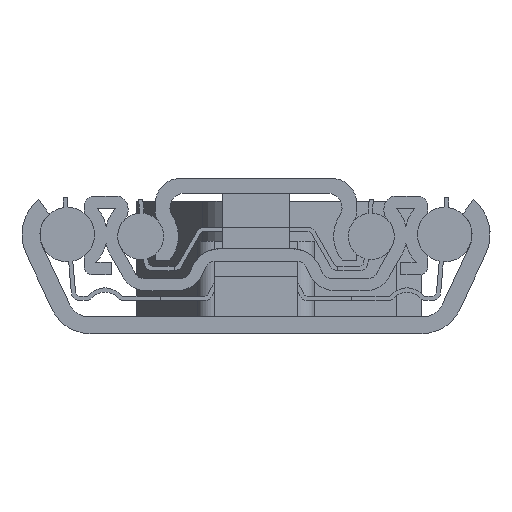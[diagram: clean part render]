
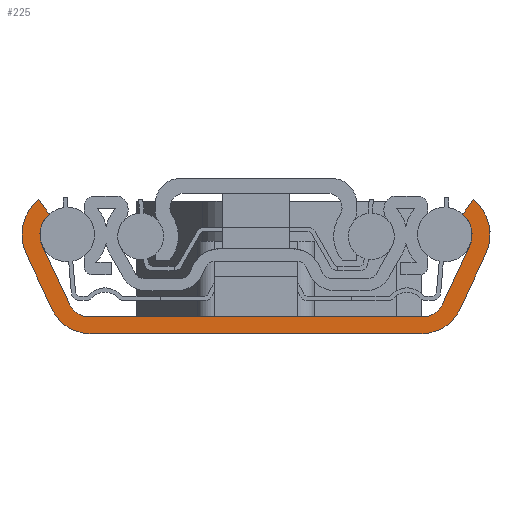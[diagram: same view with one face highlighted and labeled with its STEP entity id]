
A CAD part, left-side view. The second image highlights one B-rep face of the part: STEP entity #225.
In plain terms, the highlighted planar face has unit normal (-1, 0, 0).
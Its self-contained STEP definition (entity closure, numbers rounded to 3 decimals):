
#225 = ADVANCED_FACE( '', ( #588 ), #589, .F. );
#588 = FACE_OUTER_BOUND( '', #1297, .T. );
#589 = PLANE( '', #1298 );
#1297 = EDGE_LOOP( '', ( #2130, #2131, #2132, #2133, #2134, #2135, #2136, #2137, #2138, #2139, #2140, #2141, #2142, #2143, #2144, #2145 ) );
#1298 = AXIS2_PLACEMENT_3D( '', #2146, #2147, #2148 );
#2130 = ORIENTED_EDGE( '', *, *, #4879, .F. );
#2131 = ORIENTED_EDGE( '', *, *, #4888, .T. );
#2132 = ORIENTED_EDGE( '', *, *, #4885, .F. );
#2133 = ORIENTED_EDGE( '', *, *, #4882, .T. );
#2134 = ORIENTED_EDGE( '', *, *, #4828, .F. );
#2135 = ORIENTED_EDGE( '', *, *, #4850, .T. );
#2136 = ORIENTED_EDGE( '', *, *, #4853, .F. );
#2137 = ORIENTED_EDGE( '', *, *, #4856, .T. );
#2138 = ORIENTED_EDGE( '', *, *, #4859, .F. );
#2139 = ORIENTED_EDGE( '', *, *, #4862, .F. );
#2140 = ORIENTED_EDGE( '', *, *, #4865, .F. );
#2141 = ORIENTED_EDGE( '', *, *, #4868, .F. );
#2142 = ORIENTED_EDGE( '', *, *, #4843, .F. );
#2143 = ORIENTED_EDGE( '', *, *, #4870, .F. );
#2144 = ORIENTED_EDGE( '', *, *, #4873, .F. );
#2145 = ORIENTED_EDGE( '', *, *, #4876, .F. );
#2146 = CARTESIAN_POINT( '', ( 0., -22.5, 11.8 ) );
#2147 = DIRECTION( '', ( 1., 0., 0. ) );
#2148 = DIRECTION( '', ( 0., 0., -1. ) );
#4828 = EDGE_CURVE( '', #5795, #5796, #5797, .T. );
#4843 = EDGE_CURVE( '', #5823, #5824, #5825, .T. );
#4850 = EDGE_CURVE( '', #5795, #5836, #5837, .T. );
#4853 = EDGE_CURVE( '', #5841, #5836, #5842, .T. );
#4856 = EDGE_CURVE( '', #5841, #5846, #5847, .T. );
#4859 = EDGE_CURVE( '', #5851, #5846, #5852, .T. );
#4862 = EDGE_CURVE( '', #5856, #5851, #5857, .T. );
#4865 = EDGE_CURVE( '', #5861, #5856, #5862, .T. );
#4868 = EDGE_CURVE( '', #5824, #5861, #5866, .T. );
#4870 = EDGE_CURVE( '', #5868, #5823, #5869, .T. );
#4873 = EDGE_CURVE( '', #5873, #5868, #5874, .T. );
#4876 = EDGE_CURVE( '', #5878, #5873, #5879, .T. );
#4879 = EDGE_CURVE( '', #5883, #5878, #5884, .T. );
#4882 = EDGE_CURVE( '', #5888, #5796, #5889, .T. );
#4885 = EDGE_CURVE( '', #5888, #5893, #5894, .T. );
#4888 = EDGE_CURVE( '', #5883, #5893, #5898, .T. );
#5795 = VERTEX_POINT( '', #7377 );
#5796 = VERTEX_POINT( '', #7378 );
#5797 = LINE( '', #7379, #7380 );
#5823 = VERTEX_POINT( '', #7414 );
#5824 = VERTEX_POINT( '', #7415 );
#5825 = LINE( '', #7416, #7417 );
#5836 = VERTEX_POINT( '', #7434 );
#5837 = CIRCLE( '', #7435, 2.5 );
#5841 = VERTEX_POINT( '', #7440 );
#5842 = LINE( '', #7441, #7442 );
#5846 = VERTEX_POINT( '', #7448 );
#5847 = CIRCLE( '', #7449, 3.25 );
#5851 = VERTEX_POINT( '', #7454 );
#5852 = LINE( '', #7455, #7456 );
#5856 = VERTEX_POINT( '', #7462 );
#5857 = CIRCLE( '', #7463, 5.4 );
#5861 = VERTEX_POINT( '', #7468 );
#5862 = LINE( '', #7469, #7470 );
#5866 = CIRCLE( '', #7476, 5. );
#5868 = VERTEX_POINT( '', #7478 );
#5869 = CIRCLE( '', #7479, 5. );
#5873 = VERTEX_POINT( '', #7484 );
#5874 = LINE( '', #7485, #7486 );
#5878 = VERTEX_POINT( '', #7492 );
#5879 = CIRCLE( '', #7493, 5.4 );
#5883 = VERTEX_POINT( '', #7498 );
#5884 = LINE( '', #7499, #7500 );
#5888 = VERTEX_POINT( '', #7506 );
#5889 = CIRCLE( '', #7507, 2.5 );
#5893 = VERTEX_POINT( '', #7512 );
#5894 = LINE( '', #7513, #7514 );
#5898 = CIRCLE( '', #7520, 3.25 );
#7377 = CARTESIAN_POINT( '', ( 0., 19.923, 2. ) );
#7378 = CARTESIAN_POINT( '', ( 0., -19.923, 2. ) );
#7379 = CARTESIAN_POINT( '', ( 0., 19.923, 2. ) );
#7380 = VECTOR( '', #9651, 1000. );
#7414 = CARTESIAN_POINT( '', ( 0., -19.77, 0. ) );
#7415 = CARTESIAN_POINT( '', ( 0., 19.77, 0. ) );
#7416 = CARTESIAN_POINT( '', ( 0., -19.77, 0. ) );
#7417 = VECTOR( '', #9678, 1000. );
#7434 = CARTESIAN_POINT( '', ( 0., 22.189, 3.443 ) );
#7435 = AXIS2_PLACEMENT_3D( '', #9685, #9686, #9687 );
#7440 = CARTESIAN_POINT( '', ( 0., 25.445, 10.426 ) );
#7441 = CARTESIAN_POINT( '', ( 0., 25.445, 10.426 ) );
#7442 = VECTOR( '', #9692, 1000. );
#7448 = CARTESIAN_POINT( '', ( 0., 24.656, 14.232 ) );
#7449 = AXIS2_PLACEMENT_3D( '', #9695, #9696, #9697 );
#7454 = CARTESIAN_POINT( '', ( 0., 25.894, 16. ) );
#7455 = CARTESIAN_POINT( '', ( 0., 25.894, 16. ) );
#7456 = VECTOR( '', #9702, 1000. );
#7462 = CARTESIAN_POINT( '', ( 0., 27.394, 9.518 ) );
#7463 = AXIS2_PLACEMENT_3D( '', #9705, #9706, #9707 );
#7468 = CARTESIAN_POINT( '', ( 0., 24.302, 2.887 ) );
#7469 = CARTESIAN_POINT( '', ( 0., 24.302, 2.887 ) );
#7470 = VECTOR( '', #9712, 1000. );
#7476 = AXIS2_PLACEMENT_3D( '', #9715, #9716, #9717 );
#7478 = CARTESIAN_POINT( '', ( 0., -24.302, 2.887 ) );
#7479 = AXIS2_PLACEMENT_3D( '', #9721, #9722, #9723 );
#7484 = CARTESIAN_POINT( '', ( 0., -27.394, 9.518 ) );
#7485 = CARTESIAN_POINT( '', ( 0., -27.394, 9.518 ) );
#7486 = VECTOR( '', #9728, 1000. );
#7492 = CARTESIAN_POINT( '', ( 0., -25.894, 16. ) );
#7493 = AXIS2_PLACEMENT_3D( '', #9731, #9732, #9733 );
#7498 = CARTESIAN_POINT( '', ( 0., -24.656, 14.232 ) );
#7499 = CARTESIAN_POINT( '', ( 0., -24.656, 14.232 ) );
#7500 = VECTOR( '', #9738, 1000. );
#7506 = CARTESIAN_POINT( '', ( 0., -22.189, 3.443 ) );
#7507 = AXIS2_PLACEMENT_3D( '', #9741, #9742, #9743 );
#7512 = CARTESIAN_POINT( '', ( 0., -25.445, 10.426 ) );
#7513 = CARTESIAN_POINT( '', ( 0., -22.189, 3.443 ) );
#7514 = VECTOR( '', #9748, 1000. );
#7520 = AXIS2_PLACEMENT_3D( '', #9751, #9752, #9753 );
#9651 = DIRECTION( '', ( 0., -1., 0. ) );
#9678 = DIRECTION( '', ( 0., 1., 0. ) );
#9685 = CARTESIAN_POINT( '', ( 0., 19.923, 4.5 ) );
#9686 = DIRECTION( '', ( 1., 0., 0. ) );
#9687 = DIRECTION( '', ( 0., 0., -1. ) );
#9692 = DIRECTION( '', ( 0., -0.423, -0.906 ) );
#9695 = CARTESIAN_POINT( '', ( 0., 22.5, 11.8 ) );
#9696 = DIRECTION( '', ( 1., 0., 0. ) );
#9697 = DIRECTION( '', ( 0., 0., -1. ) );
#9702 = DIRECTION( '', ( 0., -0.574, -0.819 ) );
#9705 = CARTESIAN_POINT( '', ( 0., 22.5, 11.8 ) );
#9706 = DIRECTION( '', ( 1., 0., 0. ) );
#9707 = DIRECTION( '', ( 0., 0., -1. ) );
#9712 = DIRECTION( '', ( 0., 0.423, 0.906 ) );
#9715 = CARTESIAN_POINT( '', ( 0., 19.77, 5. ) );
#9716 = DIRECTION( '', ( 1., 0., 0. ) );
#9717 = DIRECTION( '', ( 0., 0., -1. ) );
#9721 = CARTESIAN_POINT( '', ( 0., -19.77, 5. ) );
#9722 = DIRECTION( '', ( 1., 0., 0. ) );
#9723 = DIRECTION( '', ( 0., 0., -1. ) );
#9728 = DIRECTION( '', ( 0., 0.423, -0.906 ) );
#9731 = CARTESIAN_POINT( '', ( 0., -22.5, 11.8 ) );
#9732 = DIRECTION( '', ( 1., 0., 0. ) );
#9733 = DIRECTION( '', ( 0., 0., -1. ) );
#9738 = DIRECTION( '', ( 0., -0.574, 0.819 ) );
#9741 = CARTESIAN_POINT( '', ( 0., -19.923, 4.5 ) );
#9742 = DIRECTION( '', ( 1., 0., 0. ) );
#9743 = DIRECTION( '', ( 0., 0., -1. ) );
#9748 = DIRECTION( '', ( 0., -0.423, 0.906 ) );
#9751 = CARTESIAN_POINT( '', ( 0., -22.5, 11.8 ) );
#9752 = DIRECTION( '', ( 1., 0., 0. ) );
#9753 = DIRECTION( '', ( 0., 0., -1. ) );
